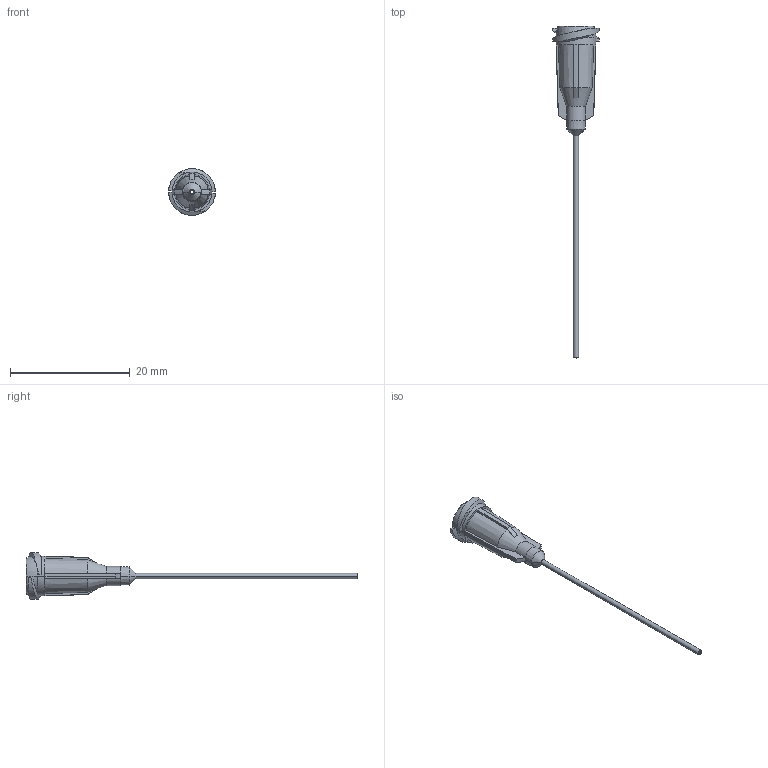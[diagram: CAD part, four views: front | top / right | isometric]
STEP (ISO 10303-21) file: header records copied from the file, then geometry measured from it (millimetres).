
FILE_DESCRIPTION (( 'STEP AP214' ), '1' );
FILE_NAME ('NORDSONEFD-7018200 TIP 20GA PP 019 X 1 1-2 PK.STEP', '2019-03-14T13:28:16', ( '' ), ( '' ), 'SwSTEP 2.0', 'SolidWorks 2019', '' );
FILE_SCHEMA (( 'AUTOMOTIVE_DESIGN' ));
Length unit declared in the file: inch
Products named in the file (1): NORDSONEFD-7018200 TIP 20GA PP 019 X 1 1-2 PK
Bounding box: 7.82 x 55.56 x 7.82 mm (x, y, z)
Volume: 277.1 mm3; surface area: 706.7 mm2
Topology: 1 solids, 1 shells, 98 faces, 228 edges, 136 vertices
Faces by surface type: plane 26, cone 24, torus 22, cylinder 14, bspline 12
Entity records: 3281 total; most frequent: CARTESIAN_POINT 997, DIRECTION 460, ORIENTED_EDGE 456, EDGE_CURVE 228, AXIS2_PLACEMENT_3D 201, VERTEX_POINT 136, CIRCLE 114, EDGE_LOOP 104
